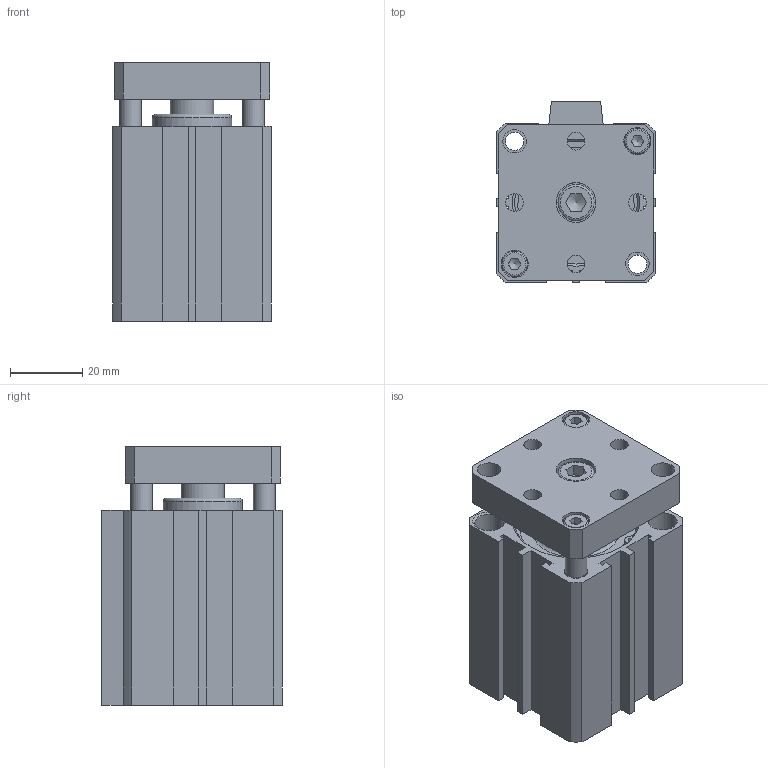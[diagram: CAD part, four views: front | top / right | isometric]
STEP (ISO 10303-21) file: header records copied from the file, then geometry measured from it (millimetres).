
FILE_DESCRIPTION((''),'2;1');
FILE_NAME('I:\3D電子目錄\氣缸\JTD\JTD\JTD32\JTD32x30.stp','2007-08-09T20:28:36',('Administrator'),(''),'Autodesk Inventor 11','Autodesk Inventor 11','');
FILE_SCHEMA(('AUTOMOTIVE_DESIGN { 1 0 10303 214 1 1 1 1 }'));
Length unit declared in the file: millimetre
Products named in the file (5): JTD32; R 形環 35; ISO 4762 M6 x 10; ISO 4762 M4 x 10
Assembly tree (6 placements, depth 2):
  JTD32
    JTD32
    R 形環 35  x2
    ISO 4762 M6 x 10
    ISO 4762 M4 x 10  x2
Bounding box: 44 x 50 x 71.5 mm (x, y, z)
Volume: 106117.8 mm3; surface area: 33653.6 mm2
Topology: 6 solids, 6 shells, 201 faces, 465 edges, 305 vertices
Faces by surface type: plane 114, cylinder 51, bspline 19, cone 12, torus 5
Full cylindrical faces by diameter (mm): 1.9 x4, 2.2 x2, 4 x2, 5.1 x2, 6 x3, 6.5 x4, 7 x2, 8 x4, 10 x1, 12 x1, 22 x1, 23 x1, 34 x4, 36 x2
Entity records: 5049 total; most frequent: CARTESIAN_POINT 1119, DIRECTION 784, ORIENTED_EDGE 684, EDGE_CURVE 342, AXIS2_PLACEMENT_3D 287, EDGE_LOOP 284, VERTEX_POINT 260, VECTOR 210
